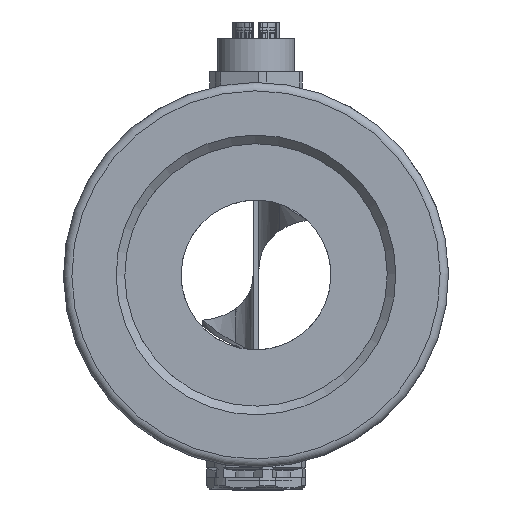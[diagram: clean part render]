
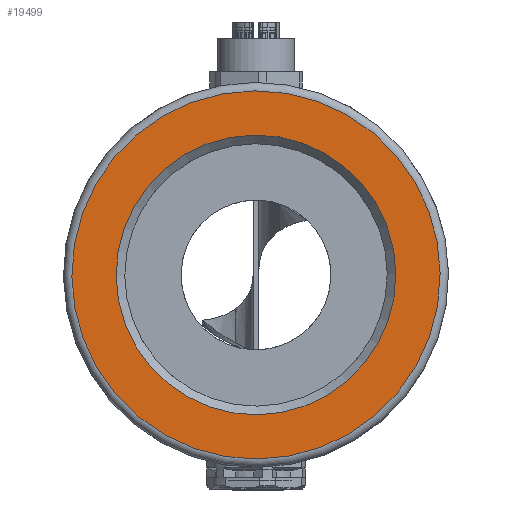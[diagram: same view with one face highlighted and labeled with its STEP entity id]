
A CAD part, left-side view. The second image highlights one B-rep face of the part: STEP entity #19499.
In plain terms, the highlighted planar face has unit normal (-1, 0, 0).
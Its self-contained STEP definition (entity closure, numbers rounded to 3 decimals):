
#308=FACE_BOUND('',#3252,.T.);
#552=CIRCLE('',#20709,23.902);
#561=CIRCLE('',#20723,31.467);
#1420=PLANE('',#20725);
#2144=FACE_OUTER_BOUND('',#3251,.T.);
#3251=EDGE_LOOP('',(#12814));
#3252=EDGE_LOOP('',(#12815));
#7784=VERTEX_POINT('',#28819);
#7791=VERTEX_POINT('',#28842);
#9739=EDGE_CURVE('',#7784,#7784,#552,.T.);
#9749=EDGE_CURVE('',#7791,#7791,#561,.T.);
#12814=ORIENTED_EDGE('',*,*,#9749,.T.);
#12815=ORIENTED_EDGE('',*,*,#9739,.T.);
#19499=ADVANCED_FACE('',(#2144,#308),#1420,.T.);
#20709=AXIS2_PLACEMENT_3D('',#28821,#22913,#22914);
#20723=AXIS2_PLACEMENT_3D('',#28843,#22942,#22943);
#20725=AXIS2_PLACEMENT_3D('',#28845,#22946,#22947);
#22913=DIRECTION('center_axis',(1.,0.,0.));
#22914=DIRECTION('ref_axis',(0.,-0.492,0.87));
#22942=DIRECTION('center_axis',(-1.,0.,0.));
#22943=DIRECTION('ref_axis',(0.,-0.492,0.87));
#22946=DIRECTION('center_axis',(-1.,0.,0.));
#22947=DIRECTION('ref_axis',(0.,-0.87,-0.492));
#28819=CARTESIAN_POINT('',(-445.65,11.764,-20.806));
#28821=CARTESIAN_POINT('Origin',(-445.65,0.,0.));
#28842=CARTESIAN_POINT('',(-445.65,27.392,15.488));
#28843=CARTESIAN_POINT('Origin',(-445.65,0.,0.));
#28845=CARTESIAN_POINT('Origin',(-445.65,-7.744,13.696));
